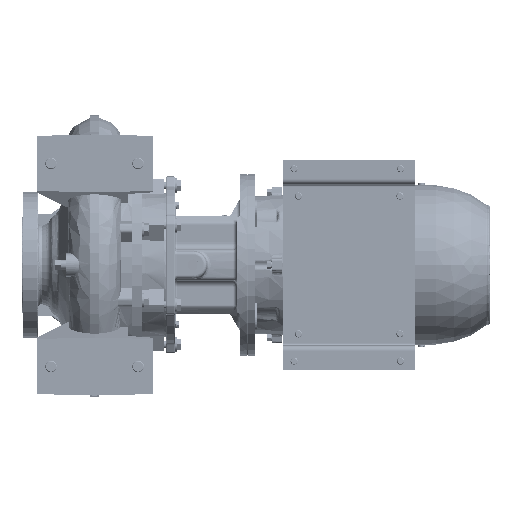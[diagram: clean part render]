
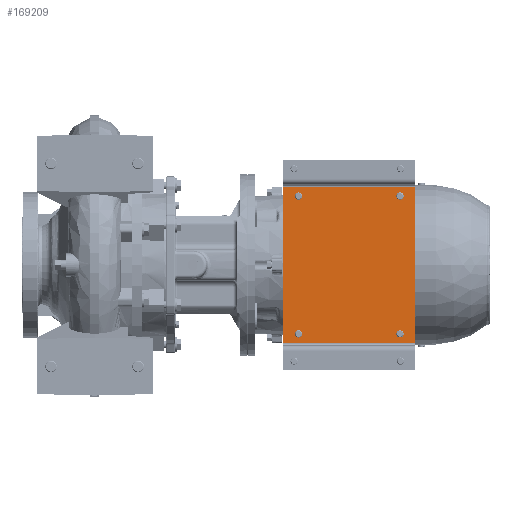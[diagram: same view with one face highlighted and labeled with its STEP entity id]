
A CAD part, front view. The second image highlights one B-rep face of the part: STEP entity #169209.
In plain terms, the highlighted planar face has unit normal (0, -1, 0).
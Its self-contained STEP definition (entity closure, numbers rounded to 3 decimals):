
#206 = EDGE_CURVE ( 'NONE', #77214, #16399, #216163, .T. ) ;
#728 = CIRCLE ( 'NONE', #188208, 5. ) ;
#1696 = ORIENTED_EDGE ( 'NONE', *, *, #58704, .T. ) ;
#6319 = EDGE_LOOP ( 'NONE', ( #194279, #105288 ) ) ;
#9771 = DIRECTION ( 'NONE',  ( 1., 0., 0. ) ) ;
#9782 = EDGE_LOOP ( 'NONE', ( #1696, #106934 ) ) ;
#10802 = VERTEX_POINT ( 'NONE', #137266 ) ;
#13124 = DIRECTION ( 'NONE',  ( 0., 1., 0. ) ) ;
#16399 = VERTEX_POINT ( 'NONE', #120280 ) ;
#17181 = DIRECTION ( 'NONE',  ( 1., 0., 0. ) ) ;
#22744 = EDGE_CURVE ( 'NONE', #38668, #139830, #75212, .T. ) ;
#24288 = LINE ( 'NONE', #91840, #209930 ) ;
#32336 = LINE ( 'NONE', #50049, #125801 ) ;
#33024 = CARTESIAN_POINT ( 'NONE',  ( 50., 78., -21. ) ) ;
#33735 = ORIENTED_EDGE ( 'NONE', *, *, #126218, .T. ) ;
#34716 = CARTESIAN_POINT ( 'NONE',  ( 240., 78., -16. ) ) ;
#35966 = DIRECTION ( 'NONE',  ( 0., 1., 0. ) ) ;
#38668 = VERTEX_POINT ( 'NONE', #203202 ) ;
#42062 = VECTOR ( 'NONE', #181803, 1000. ) ;
#44475 = VERTEX_POINT ( 'NONE', #67978 ) ;
#44949 = VERTEX_POINT ( 'NONE', #139645 ) ;
#47445 = DIRECTION ( 'NONE',  ( 0., 0., 1. ) ) ;
#48626 = FACE_BOUND ( 'NONE', #178418, .T. ) ;
#50049 = CARTESIAN_POINT ( 'NONE',  ( 253., 78., -182. ) ) ;
#51270 = AXIS2_PLACEMENT_3D ( 'NONE', #131671, #119443, #199229 ) ;
#51860 = CARTESIAN_POINT ( 'NONE',  ( 37., 78., -182. ) ) ;
#53634 = CARTESIAN_POINT ( 'NONE',  ( 240., 78., -161. ) ) ;
#55059 = CARTESIAN_POINT ( 'NONE',  ( 253., 78., 0. ) ) ;
#58704 = EDGE_CURVE ( 'NONE', #139830, #38668, #80114, .T. ) ;
#62428 = AXIS2_PLACEMENT_3D ( 'NONE', #66423, #118463, #187110 ) ;
#64696 = CIRCLE ( 'NONE', #188531, 5. ) ;
#64701 = DIRECTION ( 'NONE',  ( 1., 0., 0. ) ) ;
#66357 = DIRECTION ( 'NONE',  ( 0., -1., 0. ) ) ;
#66423 = CARTESIAN_POINT ( 'NONE',  ( 50., 78., -161. ) ) ;
#67171 = CARTESIAN_POINT ( 'NONE',  ( 240., 78., -26. ) ) ;
#67978 = CARTESIAN_POINT ( 'NONE',  ( 37., 78., 0. ) ) ;
#75212 = CIRCLE ( 'NONE', #213108, 5. ) ;
#75245 = EDGE_CURVE ( 'NONE', #105193, #89473, #190032, .T. ) ;
#76273 = ORIENTED_EDGE ( 'NONE', *, *, #75245, .T. ) ;
#76912 = CIRCLE ( 'NONE', #129887, 5. ) ;
#77214 = VERTEX_POINT ( 'NONE', #169116 ) ;
#79096 = CARTESIAN_POINT ( 'NONE',  ( 50., 78., -156. ) ) ;
#80114 = CIRCLE ( 'NONE', #62428, 5. ) ;
#81184 = EDGE_LOOP ( 'NONE', ( #174361, #209540, #119065, #164549 ) ) ;
#82974 = FACE_BOUND ( 'NONE', #121789, .T. ) ;
#83633 = CARTESIAN_POINT ( 'NONE',  ( 240., 78., -161. ) ) ;
#83950 = CARTESIAN_POINT ( 'NONE',  ( 240., 78., -166. ) ) ;
#87951 = DIRECTION ( 'NONE',  ( 0., 1., 0. ) ) ;
#89473 = VERTEX_POINT ( 'NONE', #119626 ) ;
#89545 = CARTESIAN_POINT ( 'NONE',  ( 50., 78., -21. ) ) ;
#91776 = EDGE_CURVE ( 'NONE', #16399, #115297, #32336, .T. ) ;
#91840 = CARTESIAN_POINT ( 'NONE',  ( 253., 78., 0. ) ) ;
#97266 = DIRECTION ( 'NONE',  ( 1., 0., 0. ) ) ;
#105193 = VERTEX_POINT ( 'NONE', #83950 ) ;
#105288 = ORIENTED_EDGE ( 'NONE', *, *, #127544, .T. ) ;
#106934 = ORIENTED_EDGE ( 'NONE', *, *, #22744, .T. ) ;
#115297 = VERTEX_POINT ( 'NONE', #55059 ) ;
#116420 = EDGE_CURVE ( 'NONE', #44475, #115297, #24288, .T. ) ;
#117617 = DIRECTION ( 'NONE',  ( 0., 0., 1. ) ) ;
#118463 = DIRECTION ( 'NONE',  ( 0., 1., 0. ) ) ;
#119065 = ORIENTED_EDGE ( 'NONE', *, *, #206, .T. ) ;
#119430 = LINE ( 'NONE', #51860, #173847 ) ;
#119443 = DIRECTION ( 'NONE',  ( 0., 1., 0. ) ) ;
#119626 = CARTESIAN_POINT ( 'NONE',  ( 240., 78., -156. ) ) ;
#120280 = CARTESIAN_POINT ( 'NONE',  ( 253., 78., -182. ) ) ;
#121789 = EDGE_LOOP ( 'NONE', ( #145933, #76273 ) ) ;
#123062 = EDGE_CURVE ( 'NONE', #77214, #44475, #119430, .T. ) ;
#125801 = VECTOR ( 'NONE', #117617, 1000. ) ;
#126218 = EDGE_CURVE ( 'NONE', #168905, #167924, #728, .T. ) ;
#127544 = EDGE_CURVE ( 'NONE', #44949, #10802, #64696, .T. ) ;
#128498 = DIRECTION ( 'NONE',  ( 1., 0., 0. ) ) ;
#129887 = AXIS2_PLACEMENT_3D ( 'NONE', #89545, #194726, #9771 ) ;
#131238 = EDGE_CURVE ( 'NONE', #167924, #168905, #157415, .T. ) ;
#131671 = CARTESIAN_POINT ( 'NONE',  ( 240., 78., -21. ) ) ;
#131982 = CARTESIAN_POINT ( 'NONE',  ( 253., 78., -182. ) ) ;
#133942 = DIRECTION ( 'NONE',  ( 1., 0., 0. ) ) ;
#134196 = DIRECTION ( 'NONE',  ( 1., 0., 0. ) ) ;
#137266 = CARTESIAN_POINT ( 'NONE',  ( 50., 78., -16. ) ) ;
#138419 = AXIS2_PLACEMENT_3D ( 'NONE', #201485, #66357, #133942 ) ;
#139645 = CARTESIAN_POINT ( 'NONE',  ( 50., 78., -26. ) ) ;
#139830 = VERTEX_POINT ( 'NONE', #79096 ) ;
#140414 = CIRCLE ( 'NONE', #182880, 5. ) ;
#145933 = ORIENTED_EDGE ( 'NONE', *, *, #151537, .T. ) ;
#150587 = FACE_OUTER_BOUND ( 'NONE', #81184, .T. ) ;
#151537 = EDGE_CURVE ( 'NONE', #89473, #105193, #140414, .T. ) ;
#151801 = ORIENTED_EDGE ( 'NONE', *, *, #131238, .T. ) ;
#157415 = CIRCLE ( 'NONE', #51270, 5. ) ;
#160521 = EDGE_CURVE ( 'NONE', #10802, #44949, #76912, .T. ) ;
#164549 = ORIENTED_EDGE ( 'NONE', *, *, #91776, .T. ) ;
#166616 = DIRECTION ( 'NONE',  ( 0., 1., 0. ) ) ;
#167924 = VERTEX_POINT ( 'NONE', #34716 ) ;
#168905 = VERTEX_POINT ( 'NONE', #67171 ) ;
#169116 = CARTESIAN_POINT ( 'NONE',  ( 37., 78., -182. ) ) ;
#169209 = ADVANCED_FACE ( 'NONE', ( #48626, #198196, #181544, #82974, #150587 ), #218112, .T. ) ;
#173847 = VECTOR ( 'NONE', #47445, 1000. ) ;
#174361 = ORIENTED_EDGE ( 'NONE', *, *, #116420, .F. ) ;
#178418 = EDGE_LOOP ( 'NONE', ( #151801, #33735 ) ) ;
#181544 = FACE_BOUND ( 'NONE', #6319, .T. ) ;
#181803 = DIRECTION ( 'NONE',  ( 1., 0., 0. ) ) ;
#182880 = AXIS2_PLACEMENT_3D ( 'NONE', #53634, #87951, #134196 ) ;
#187110 = DIRECTION ( 'NONE',  ( 1., 0., 0. ) ) ;
#188208 = AXIS2_PLACEMENT_3D ( 'NONE', #197644, #166616, #64701 ) ;
#188531 = AXIS2_PLACEMENT_3D ( 'NONE', #33024, #13124, #97266 ) ;
#190032 = CIRCLE ( 'NONE', #200606, 5. ) ;
#193758 = DIRECTION ( 'NONE',  ( 1., 0., 0. ) ) ;
#194279 = ORIENTED_EDGE ( 'NONE', *, *, #160521, .T. ) ;
#194726 = DIRECTION ( 'NONE',  ( 0., 1., 0. ) ) ;
#197130 = CARTESIAN_POINT ( 'NONE',  ( 50., 78., -161. ) ) ;
#197644 = CARTESIAN_POINT ( 'NONE',  ( 240., 78., -21. ) ) ;
#198196 = FACE_BOUND ( 'NONE', #9782, .T. ) ;
#199229 = DIRECTION ( 'NONE',  ( 1., 0., 0. ) ) ;
#200606 = AXIS2_PLACEMENT_3D ( 'NONE', #83633, #35966, #17181 ) ;
#201485 = CARTESIAN_POINT ( 'NONE',  ( 253., 78., -182. ) ) ;
#203202 = CARTESIAN_POINT ( 'NONE',  ( 50., 78., -166. ) ) ;
#209540 = ORIENTED_EDGE ( 'NONE', *, *, #123062, .F. ) ;
#209930 = VECTOR ( 'NONE', #193758, 1000. ) ;
#213108 = AXIS2_PLACEMENT_3D ( 'NONE', #197130, #218129, #128498 ) ;
#216163 = LINE ( 'NONE', #131982, #42062 ) ;
#218112 = PLANE ( 'NONE',  #138419 ) ;
#218129 = DIRECTION ( 'NONE',  ( 0., 1., 0. ) ) ;
